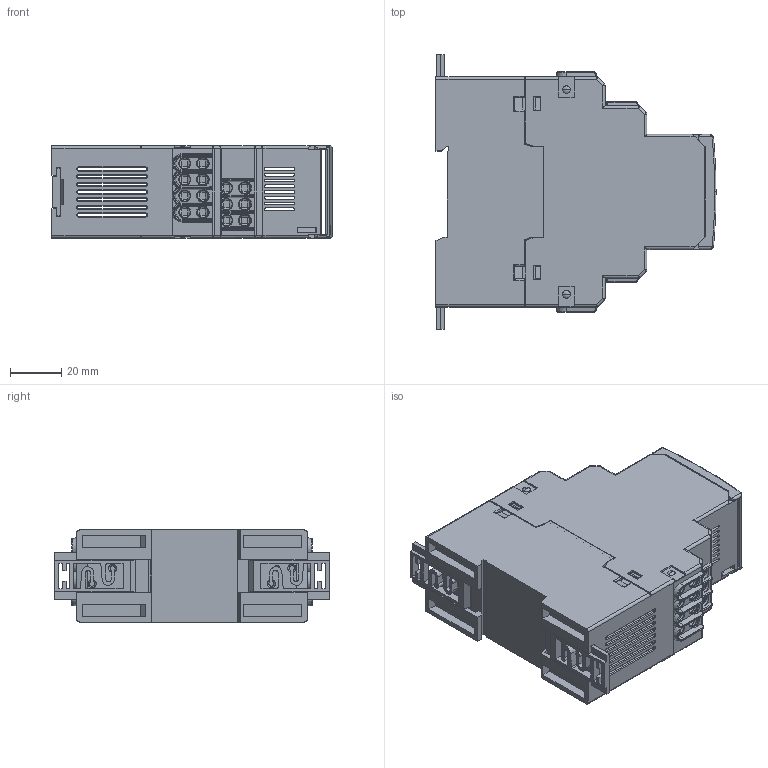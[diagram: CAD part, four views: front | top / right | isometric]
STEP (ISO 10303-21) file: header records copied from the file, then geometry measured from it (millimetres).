
FILE_DESCRIPTION (( 'STEP AP203' ), '1' );
FILE_NAME ('Ges_XM420H_Z152082.01.STEP', '2013-01-09T12:39:38', ( '' ), ( '' ), 'SwSTEP 2.0', 'SolidWorks 2012', '' );
FILE_SCHEMA (( 'CONFIG_CONTROL_DESIGN' ));
Products named in the file (8): Ges_XM420H_Z152082.01; 370033_OR; 370032_OL; 370030_V2; Plomb_z151797.04__36mm_2TE; Oberteil_z151795.10__36_V3; Schieber_z151798.03; Unterteil_z151974.06__36mm_2TE
Assembly tree (11 placements, depth 2):
  Ges_XM420H_Z152082.01
    Unterteil_z151974.06__36mm_2TE
    Schieber_z151798.03  x2
    Oberteil_z151795.10__36_V3
    Plomb_z151797.04__36mm_2TE
    370030_V2  x4
    370032_OL
    370033_OR
Bounding box: 109.5 x 107.3 x 36 mm (x, y, z)
Volume: 78515.7 mm3; surface area: 84702.9 mm2
Topology: 11 solids, 11 shells, 4864 faces, 13079 edges, 8277 vertices
Faces by surface type: plane 3035, cylinder 1097, bspline 388, cone 196, torus 124, sphere 24
Entity records: 123927 total; most frequent: CARTESIAN_POINT 38481, ORIENTED_EDGE 18524, DIRECTION 16254, EDGE_CURVE 9262, LINE 6782, VECTOR 6782, VERTEX_POINT 5912, AXIS2_PLACEMENT_3D 4736
